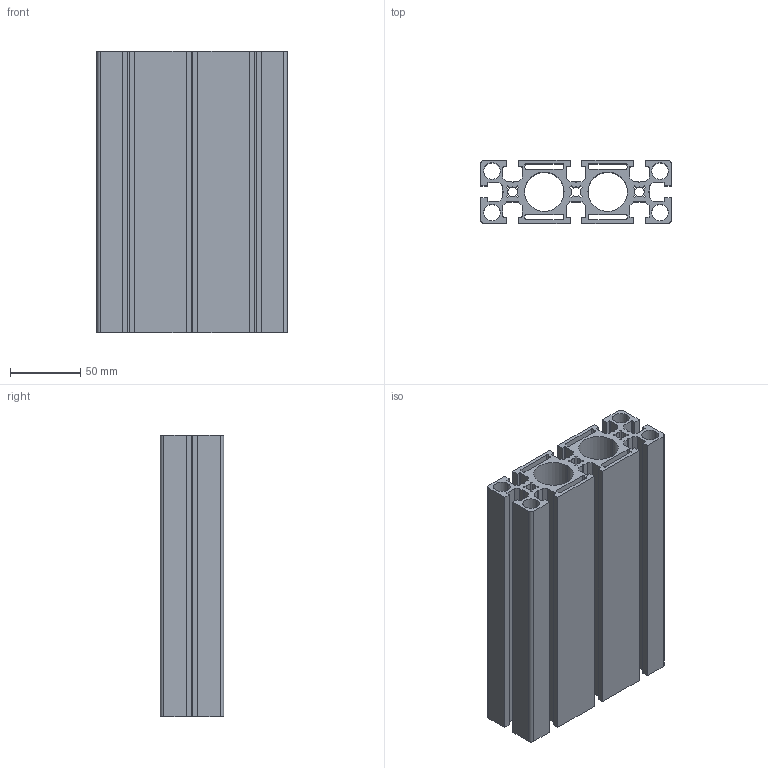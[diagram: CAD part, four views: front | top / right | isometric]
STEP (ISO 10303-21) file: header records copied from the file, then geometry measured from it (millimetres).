
FILE_DESCRIPTION (( 'STEP AP203' ), '1' );
FILE_NAME ('013978 REF 45135.STEP', '2015-12-01T11:51:52', ( '' ), ( '' ), 'SwSTEP 2.0', 'SolidWorks 2015', '' );
FILE_SCHEMA (( 'CONFIG_CONTROL_DESIGN' ));
Length unit declared in the file: millimetre
Products named in the file (1): 013978 REF 45135
Bounding box: 135 x 45 x 200 mm (x, y, z)
Volume: 480362 mm3; surface area: 274242.3 mm2
Topology: 1 solids, 1 shells, 216 faces, 642 edges, 428 vertices
Faces by surface type: plane 146, cylinder 70
Entity records: 7355 total; most frequent: CARTESIAN_POINT 1287, ORIENTED_EDGE 1284, DIRECTION 1216, EDGE_CURVE 642, VECTOR 502, LINE 502, VERTEX_POINT 428, AXIS2_PLACEMENT_3D 357
